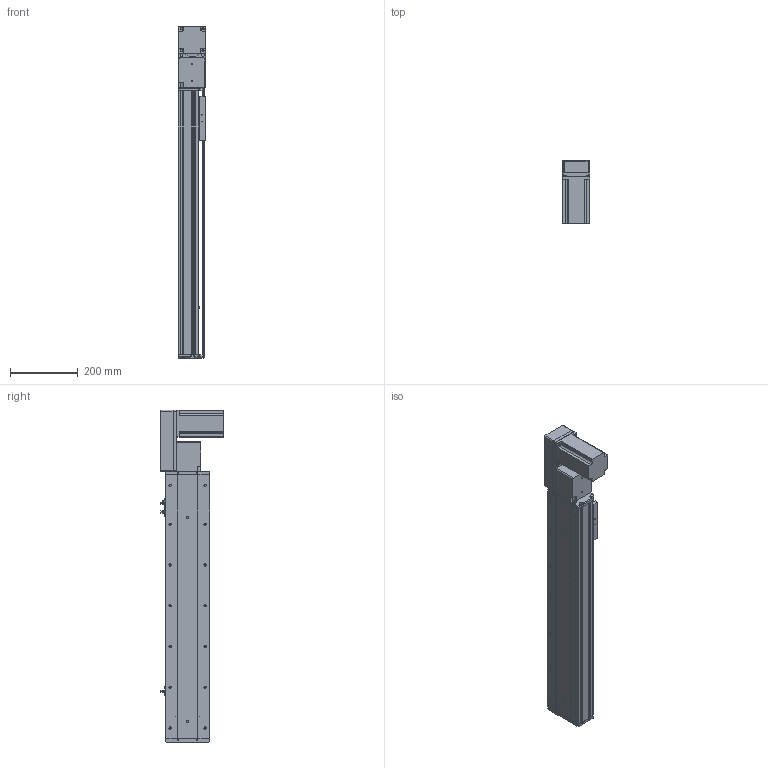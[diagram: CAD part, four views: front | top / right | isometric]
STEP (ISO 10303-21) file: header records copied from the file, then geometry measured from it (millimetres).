
FILE_DESCRIPTION (( 'STEP AP214' ), '1' );
FILE_NAME ('KSD130B-S550-MRB-CM.STEP', '2019-11-15T06:02:29', ( '微软用户' ), ( '微软中国' ), 'SwSTEP 2.0', 'SolidWorks 2014', '' );
FILE_SCHEMA (( 'AUTOMOTIVE_DESIGN' ));
Length unit declared in the file: millimetre
Products named in the file (12): 台达ECMA－C20807AS伺服电机; 130宽模组保护罩上下左右折-同步带; 130宽模组马达安装板连板左右折同步带; 覜茼え100遵圉猾敕; U倰嫖萇EEㄜSX672; 130宽盖板半封闭同步带-550行程; 130宽马达安装板同步带右-改镜向_默认<按加工>; 130宽马达安装板同步带半封闭; 130宽同步带安装座半封闭; 130宽端盖同步带半封闭; 130宽底板半封闭同步带-550行程; KSD130B-S550-MRB-CM
Assembly tree (13 placements, depth 2):
  KSD130B-S550-MRB-CM
    130宽底板半封闭同步带-550行程
    130宽端盖同步带半封闭
    130宽同步带安装座半封闭
    130宽马达安装板同步带半封闭
    130宽马达安装板同步带右-改镜向_默认<按加工>
    130宽盖板半封闭同步带-550行程
    U倰嫖萇EEㄜSX672  x3
    覜茼え100遵圉猾敕
    130宽模组马达安装板连板左右折同步带
    130宽模组保护罩上下左右折-同步带
    台达ECMA－C20807AS伺服电机
Bounding box: 81 x 184.8 x 977 mm (x, y, z)
Volume: 3774322.9 mm3; surface area: 989388.5 mm2
Topology: 14 solids, 14 shells, 1427 faces, 4021 edges, 2581 vertices
Faces by surface type: cylinder 670, plane 610, cone 147
Entity records: 45799 total; most frequent: CARTESIAN_POINT 8238, DIRECTION 7019, ORIENTED_EDGE 6734, EDGE_CURVE 3367, AXIS2_PLACEMENT_3D 2542, VERTEX_POINT 2205, LINE 1935, VECTOR 1935
